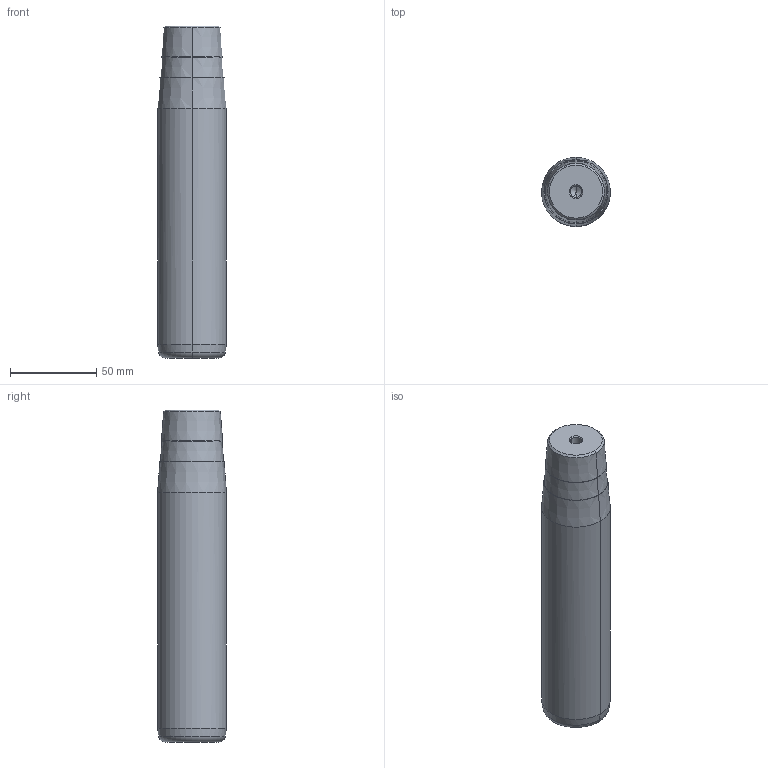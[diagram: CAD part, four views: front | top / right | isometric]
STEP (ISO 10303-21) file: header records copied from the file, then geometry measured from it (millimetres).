
FILE_DESCRIPTION(('CATIA V5 STEP Exchange'),'2;1');
FILE_NAME('C:\Users\Utente\Desktop\IO LAVORO\3D X SITO CF\X SITO\722\722-40x160x193.stp','2021-01-08T15:36:36+00:00',('none'),('none'),'CATIA Version 5 Release 20 GA (IN-10)','CATIA V5 STEP AP203','none');
FILE_SCHEMA(('CONFIG_CONTROL_DESIGN'));
Length unit declared in the file: millimetre
Products named in the file (1): 722-40x160x193
Bounding box: 40 x 40 x 193 mm (x, y, z)
Volume: 229170.4 mm3; surface area: 26590 mm2
Topology: 1 solids, 1 shells, 32 faces, 98 edges, 66 vertices
Faces by surface type: cone 22, cylinder 6, plane 2, torus 2
Entity records: 1166 total; most frequent: CARTESIAN_POINT 279, ORIENTED_EDGE 188, DIRECTION 148, EDGE_CURVE 94, AXIS2_PLACEMENT_3D 89, VERTEX_POINT 66, CIRCLE 56, EDGE_LOOP 34
